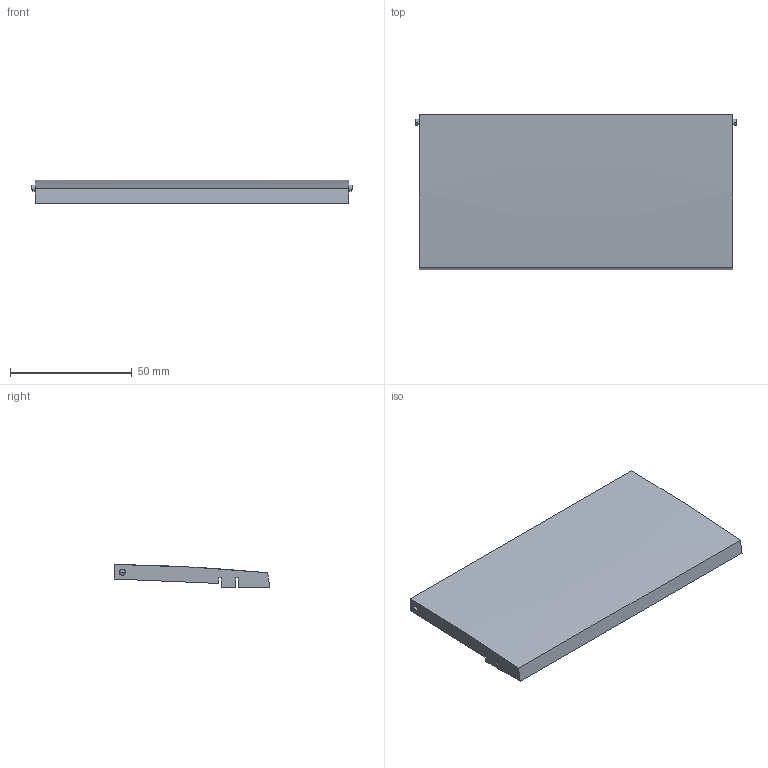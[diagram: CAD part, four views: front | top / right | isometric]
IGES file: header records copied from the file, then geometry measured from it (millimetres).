
Start section:  PTC IGES file: j4-du9-11k-cover2.igs
Global section: file name: j4-du9-11k-cover2.igs; native system: Creo Parametric by Parametric Technology Corporation; preprocessor: 2014310; author: JR20012; organization: Unknown; date: 20160927.133802; units: millimetre
Bounding box: 131.7 x 63.92 x 9.51 mm (x, y, z)
Volume: 15236.2 mm3; surface area: 21524.8 mm2
Topology: 1 solids, 1 shells, 39 faces, 102 edges, 68 vertices
Faces by surface type: bspline 39
